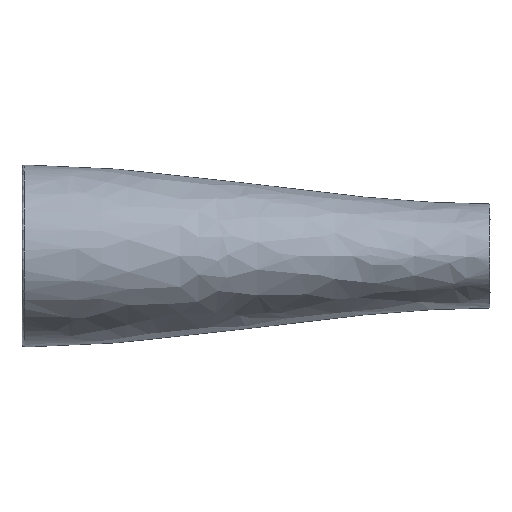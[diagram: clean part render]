
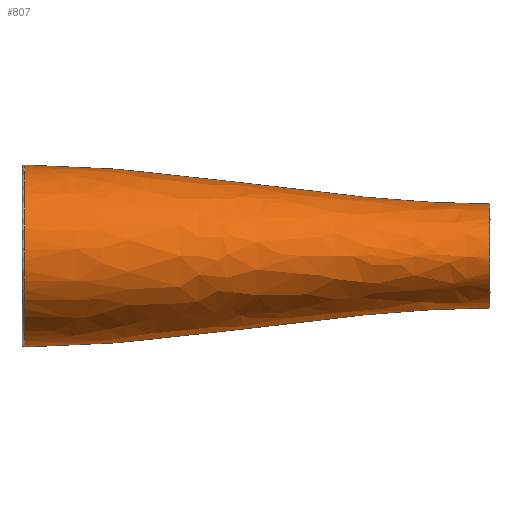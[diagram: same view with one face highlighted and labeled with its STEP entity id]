
A CAD part, left-side view. The second image highlights one B-rep face of the part: STEP entity #807.
In plain terms, the highlighted free-form (B-spline) face has degree [3, 3] with [4, 15] control points.
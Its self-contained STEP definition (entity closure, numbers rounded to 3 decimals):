
#1=CARTESIAN_POINT('',(0.,0.,-100.));
#2=CARTESIAN_POINT('',(-19.635,0.,-100.));
#3=CARTESIAN_POINT('',(-58.899,0.,-94.794));
#4=CARTESIAN_POINT('',(-100.497,0.,-76.255));
#5=CARTESIAN_POINT('',(-125.523,0.,-55.914));
#6=CARTESIAN_POINT('',(-139.476,0.,-38.515));
#7=CARTESIAN_POINT('',(-148.066,0.,-19.635));
#8=CARTESIAN_POINT('',(-150.967,0.,0.));
#9=CARTESIAN_POINT('',(-148.066,0.,19.635));
#10=CARTESIAN_POINT('',(-139.476,0.,38.515));
#11=CARTESIAN_POINT('',(-125.523,0.,55.914));
#12=CARTESIAN_POINT('',(-100.497,0.,76.255));
#13=CARTESIAN_POINT('',(-58.899,0.,94.794));
#14=CARTESIAN_POINT('',(-19.635,0.,100.));
#15=CARTESIAN_POINT('',(0.,0.,100.));
#65=CARTESIAN_POINT('',(0.,894.986,174.993));
#66=CARTESIAN_POINT('',(-29.44,894.986,174.993));
#67=CARTESIAN_POINT('',(-88.31,894.986,165.892));
#68=CARTESIAN_POINT('',(-150.697,894.987,133.47));
#69=CARTESIAN_POINT('',(-188.246,894.986,97.885));
#70=CARTESIAN_POINT('',(-209.188,894.986,67.436));
#71=CARTESIAN_POINT('',(-222.088,894.986,34.382));
#72=CARTESIAN_POINT('',(-226.446,894.986,
0.));
#73=CARTESIAN_POINT('',(-222.088,894.986,-34.382));
#74=CARTESIAN_POINT('',(-209.188,894.986,-67.436));
#75=CARTESIAN_POINT('',(-188.246,894.986,-97.885));
#76=CARTESIAN_POINT('',(-150.697,894.987,-133.47));
#77=CARTESIAN_POINT('',(-88.31,894.986,-165.892));
#78=CARTESIAN_POINT('',(-29.44,894.986,-174.993));
#79=CARTESIAN_POINT('',(0.,894.986,
-174.993));
#81=CARTESIAN_POINT('',(0.,894.986,174.993));
#82=CARTESIAN_POINT('',(0.,595.652,174.17));
#83=CARTESIAN_POINT('',(0.,299.369,100.));
#84=CARTESIAN_POINT('',(0.,0.,100.));
#96=CARTESIAN_POINT('',(0.,894.986,
-174.993));
#110=CARTESIAN_POINT('',(0.,894.986,174.993));
#112=CARTESIAN_POINT('',(0.,894.986,
-174.993));
#113=CARTESIAN_POINT('',(0.,595.652,
-174.17));
#114=CARTESIAN_POINT('',(0.,299.369,-100.));
#115=CARTESIAN_POINT('',(0.,0.,-100.));
#697=VERTEX_POINT('',#1);
#698=VERTEX_POINT('',#15);
#707=VERTEX_POINT('',#96);
#708=VERTEX_POINT('',#110);
#737=CARTESIAN_POINT('',(7.917,-8.987,-99.881));
#738=CARTESIAN_POINT('',(-14.298,-8.987,
-100.678));
#739=CARTESIAN_POINT('',(-56.568,-8.987,
-95.83));
#740=CARTESIAN_POINT('',(-100.376,-8.986,
-76.348));
#741=CARTESIAN_POINT('',(-125.432,-8.986,
-56.037));
#742=CARTESIAN_POINT('',(-139.43,-8.986,
-38.636));
#743=CARTESIAN_POINT('',(-148.072,-8.987,
-19.714));
#744=CARTESIAN_POINT('',(-150.998,-8.987,
0.));
#745=CARTESIAN_POINT('',(-148.072,-8.987,19.714));
#746=CARTESIAN_POINT('',(-139.43,-8.986,38.636));
#747=CARTESIAN_POINT('',(-125.432,-8.986,56.037));
#748=CARTESIAN_POINT('',(-100.376,-8.986,76.348));
#749=CARTESIAN_POINT('',(-56.568,-8.987,95.83));
#750=CARTESIAN_POINT('',(-14.298,-8.987,100.678));
#751=CARTESIAN_POINT('',(7.917,-8.987,99.881));
#752=CARTESIAN_POINT('',(8.302,296.436,-98.337));
#753=CARTESIAN_POINT('',(-14.988,296.438,-99.219));
#754=CARTESIAN_POINT('',(-59.433,296.424,-93.843));
#755=CARTESIAN_POINT('',(-104.083,296.394,-72.537));
#756=CARTESIAN_POINT('',(-127.998,296.392,-51.344));
#757=CARTESIAN_POINT('',(-140.336,296.407,-34.131));
#758=CARTESIAN_POINT('',(-147.118,296.429,-16.809));
#759=CARTESIAN_POINT('',(-149.181,296.44,
0.));
#760=CARTESIAN_POINT('',(-147.118,296.429,16.809));
#761=CARTESIAN_POINT('',(-140.336,296.407,34.131));
#762=CARTESIAN_POINT('',(-127.998,296.392,51.344));
#763=CARTESIAN_POINT('',(-104.083,296.394,72.537));
#764=CARTESIAN_POINT('',(-59.433,296.424,93.843));
#765=CARTESIAN_POINT('',(-14.988,296.438,99.219));
#766=CARTESIAN_POINT('',(8.302,296.436,98.337));
#767=CARTESIAN_POINT('',(11.631,598.586,-175.432));
#768=CARTESIAN_POINT('',(-21.011,598.585,-176.76));
#769=CARTESIAN_POINT('',(-83.009,598.592,-168.692));
#770=CARTESIAN_POINT('',(-148.391,598.604,-135.812));
#771=CARTESIAN_POINT('',(-186.75,598.603,-100.677));
#772=CARTESIAN_POINT('',(-208.661,598.597,-69.985));
#773=CARTESIAN_POINT('',(-222.499,598.589,-35.939));
#774=CARTESIAN_POINT('',(-227.252,598.585,
0.));
#775=CARTESIAN_POINT('',(-222.499,598.589,35.939));
#776=CARTESIAN_POINT('',(-208.661,598.597,69.985));
#777=CARTESIAN_POINT('',(-186.75,598.603,100.677));
#778=CARTESIAN_POINT('',(-148.391,598.604,135.812));
#779=CARTESIAN_POINT('',(-83.009,598.592,168.692));
#780=CARTESIAN_POINT('',(-21.011,598.585,176.76));
#781=CARTESIAN_POINT('',(11.631,598.586,175.432));
#782=CARTESIAN_POINT('',(11.897,903.974,-174.747));
#783=CARTESIAN_POINT('',(-21.487,903.974,-176.147));
#784=CARTESIAN_POINT('',(-85.014,903.974,-167.628));
#785=CARTESIAN_POINT('',(-150.779,903.974,-133.419));
#786=CARTESIAN_POINT('',(-188.309,903.974,-97.816));
#787=CARTESIAN_POINT('',(-209.224,903.974,-67.37));
#788=CARTESIAN_POINT('',(-222.098,903.974,-34.341));
#789=CARTESIAN_POINT('',(-226.444,903.974,
0.));
#790=CARTESIAN_POINT('',(-222.098,903.974,34.341));
#791=CARTESIAN_POINT('',(-209.224,903.974,67.37));
#792=CARTESIAN_POINT('',(-188.309,903.974,97.816));
#793=CARTESIAN_POINT('',(-150.779,903.974,133.419));
#794=CARTESIAN_POINT('',(-85.014,903.974,167.628));
#795=CARTESIAN_POINT('',(-21.487,903.974,176.147));
#796=CARTESIAN_POINT('',(11.897,903.974,174.747));
#797=B_SPLINE_SURFACE_WITH_KNOTS('',3,3,((#737,#738,#739,#740,#741,#742,#743,
#744,#745,#746,#747,#748,#749,#750,#751),(#752,#753,#754,#755,#756,#757,#758,
#759,#760,#761,#762,#763,#764,#765,#766),(#767,#768,#769,#770,#771,#772,#773,
#774,#775,#776,#777,#778,#779,#780,#781),(#782,#783,#784,#785,#786,#787,#788,
#789,#790,#791,#792,#793,#794,#795,#796)),.UNSPECIFIED.,.F.,.F.,.F.,(4,4),(4,1,
1,1,1,1,1,1,1,1,1,1,4),(-0.01,1.004),
(-0.008,0.063,0.125,0.156,0.188,0.219,0.25,
0.281,0.313,0.344,0.375,0.438,0.508),.UNSPECIFIED.);
#799=ORIENTED_EDGE('',*,*,#798,.F.);
#801=ORIENTED_EDGE('',*,*,#800,.T.);
#802=ORIENTED_EDGE('',*,*,#724,.F.);
#804=ORIENTED_EDGE('',*,*,#803,.F.);
#805=EDGE_LOOP('',(#799,#801,#802,#804));
#806=FACE_OUTER_BOUND('',#805,.F.);
#807=ADVANCED_FACE('',(#806),#797,.F.);
#16=B_SPLINE_CURVE_WITH_KNOTS('',3,(#1,#2,#3,#4,#5,#6,#7,#8,#9,#10,#11,#12,#13,
#14,#15),.UNSPECIFIED.,.F.,.F.,(4,1,1,1,1,1,1,1,1,1,1,1,4),(0.,0.125,0.25,
0.313,0.375,0.438,0.5,0.563,0.625,0.688,0.75,0.875,1.),
.UNSPECIFIED.);
#80=B_SPLINE_CURVE_WITH_KNOTS('',3,(#65,#66,#67,#68,#69,#70,#71,#72,#73,#74,#75,
#76,#77,#78,#79),.UNSPECIFIED.,.F.,.F.,(4,1,1,1,1,1,1,1,1,1,1,1,4),(0.,
0.125,0.25,0.313,0.375,0.438,0.5,0.563,0.625,0.688,0.75,
0.875,1.),.UNSPECIFIED.);
#85=B_SPLINE_CURVE_WITH_KNOTS('',3,(#81,#82,#83,#84),.UNSPECIFIED.,.F.,.F.,(4,
4),(0.,1.),.UNSPECIFIED.);
#116=B_SPLINE_CURVE_WITH_KNOTS('',3,(#112,#113,#114,#115),.UNSPECIFIED.,.F.,.F.,
(4,4),(0.,1.),.UNSPECIFIED.);
#724=EDGE_CURVE('',#697,#698,#16,.T.);
#798=EDGE_CURVE('',#708,#707,#80,.T.);
#800=EDGE_CURVE('',#708,#698,#85,.T.);
#803=EDGE_CURVE('',#707,#697,#116,.T.);
